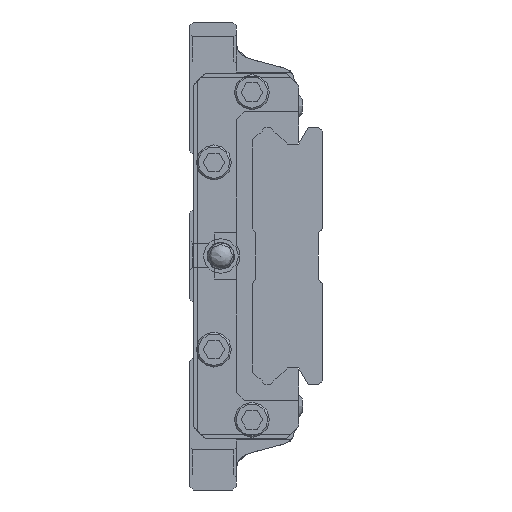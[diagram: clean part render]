
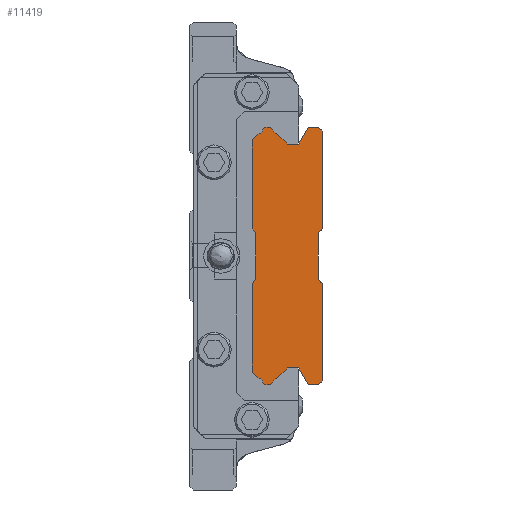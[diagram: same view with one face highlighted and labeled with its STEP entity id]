
A CAD part, left-side view. The second image highlights one B-rep face of the part: STEP entity #11419.
In plain terms, the highlighted planar face has unit normal (-1, 0, 0).
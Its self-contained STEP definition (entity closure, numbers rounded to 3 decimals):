
#526=LINE('',#18287,#1148);
#536=LINE('',#18308,#1158);
#543=LINE('',#18323,#1165);
#552=LINE('',#18341,#1174);
#555=LINE('',#18346,#1177);
#562=LINE('',#18358,#1184);
#571=LINE('',#18377,#1193);
#574=LINE('',#18383,#1196);
#580=LINE('',#18395,#1202);
#589=LINE('',#18413,#1211);
#592=LINE('',#18419,#1214);
#598=LINE('',#18431,#1220);
#603=LINE('',#18516,#1225);
#609=LINE('',#18602,#1231);
#618=LINE('',#18620,#1240);
#621=LINE('',#18701,#1243);
#629=LINE('',#18791,#1251);
#632=LINE('',#18873,#1254);
#638=LINE('',#18959,#1260);
#647=LINE('',#18977,#1269);
#650=LINE('',#19059,#1272);
#656=LINE('',#19145,#1278);
#661=LINE('',#19158,#1283);
#664=LINE('',#19164,#1286);
#666=LINE('',#19167,#1288);
#668=LINE('',#19170,#1290);
#671=LINE('',#19176,#1293);
#674=LINE('',#19188,#1296);
#1148=VECTOR('',#14594,1000.);
#1158=VECTOR('',#14606,1000.);
#1165=VECTOR('',#14617,1000.);
#1174=VECTOR('',#14628,1000.);
#1177=VECTOR('',#14633,1000.);
#1184=VECTOR('',#14644,1000.);
#1193=VECTOR('',#14655,1000.);
#1196=VECTOR('',#14660,1000.);
#1202=VECTOR('',#14670,1000.);
#1211=VECTOR('',#14681,1000.);
#1214=VECTOR('',#14686,1000.);
#1220=VECTOR('',#14696,1000.);
#1225=VECTOR('',#14779,1000.);
#1231=VECTOR('',#14863,1000.);
#1240=VECTOR('',#14874,1000.);
#1243=VECTOR('',#14955,1000.);
#1251=VECTOR('',#15041,1000.);
#1254=VECTOR('',#15122,1000.);
#1260=VECTOR('',#15206,1000.);
#1269=VECTOR('',#15217,1000.);
#1272=VECTOR('',#15298,1000.);
#1278=VECTOR('',#15382,1000.);
#1283=VECTOR('',#15395,1000.);
#1286=VECTOR('',#15400,1000.);
#1288=VECTOR('',#15404,1000.);
#1290=VECTOR('',#15408,1000.);
#1293=VECTOR('',#15413,1000.);
#1296=VECTOR('',#15430,1000.);
#1545=PLANE('',#12634);
#3767=ORIENTED_EDGE('',*,*,#5361,.F.);
#3768=ORIENTED_EDGE('',*,*,#5387,.F.);
#3769=ORIENTED_EDGE('',*,*,#5807,.T.);
#3770=ORIENTED_EDGE('',*,*,#5781,.F.);
#3771=ORIENTED_EDGE('',*,*,#5738,.F.);
#3772=ORIENTED_EDGE('',*,*,#5697,.F.);
#3773=ORIENTED_EDGE('',*,*,#5805,.F.);
#3774=ORIENTED_EDGE('',*,*,#5688,.F.);
#3775=ORIENTED_EDGE('',*,*,#5645,.F.);
#3776=ORIENTED_EDGE('',*,*,#5604,.F.);
#3777=ORIENTED_EDGE('',*,*,#5803,.T.);
#3778=ORIENTED_EDGE('',*,*,#5423,.F.);
#3779=ORIENTED_EDGE('',*,*,#5417,.F.);
#3780=ORIENTED_EDGE('',*,*,#5414,.F.);
#3781=ORIENTED_EDGE('',*,*,#5801,.T.);
#3782=ORIENTED_EDGE('',*,*,#5798,.F.);
#3783=ORIENTED_EDGE('',*,*,#5795,.F.);
#3784=ORIENTED_EDGE('',*,*,#5405,.F.);
#3785=ORIENTED_EDGE('',*,*,#5399,.F.);
#3786=ORIENTED_EDGE('',*,*,#5396,.F.);
#3787=ORIENTED_EDGE('',*,*,#5559,.F.);
#3788=ORIENTED_EDGE('',*,*,#5518,.F.);
#3789=ORIENTED_EDGE('',*,*,#5793,.F.);
#3790=ORIENTED_EDGE('',*,*,#5509,.F.);
#3791=ORIENTED_EDGE('',*,*,#5466,.F.);
#3792=ORIENTED_EDGE('',*,*,#5351,.F.);
#3793=ORIENTED_EDGE('',*,*,#5380,.F.);
#3794=ORIENTED_EDGE('',*,*,#5377,.F.);
#3795=ORIENTED_EDGE('',*,*,#5791,.F.);
#3796=ORIENTED_EDGE('',*,*,#5788,.F.);
#3797=ORIENTED_EDGE('',*,*,#5785,.T.);
#3798=ORIENTED_EDGE('',*,*,#5368,.F.);
#5351=EDGE_CURVE('',#6531,#6532,#526,.T.);
#5361=EDGE_CURVE('',#6541,#6542,#536,.T.);
#5368=EDGE_CURVE('',#6542,#6548,#543,.T.);
#5377=EDGE_CURVE('',#6555,#6556,#552,.T.);
#5380=EDGE_CURVE('',#6556,#6531,#555,.T.);
#5387=EDGE_CURVE('',#6559,#6541,#562,.T.);
#5396=EDGE_CURVE('',#6568,#6569,#571,.T.);
#5399=EDGE_CURVE('',#6569,#6571,#574,.T.);
#5405=EDGE_CURVE('',#6571,#6575,#580,.T.);
#5414=EDGE_CURVE('',#6582,#6583,#589,.T.);
#5417=EDGE_CURVE('',#6583,#6585,#592,.T.);
#5423=EDGE_CURVE('',#6585,#6589,#598,.T.);
#5466=EDGE_CURVE('',#6532,#6630,#603,.T.);
#5509=EDGE_CURVE('',#6630,#6671,#609,.T.);
#5518=EDGE_CURVE('',#6678,#6679,#618,.T.);
#5559=EDGE_CURVE('',#6679,#6568,#621,.T.);
#5604=EDGE_CURVE('',#6760,#6761,#629,.T.);
#5645=EDGE_CURVE('',#6761,#6801,#632,.T.);
#5688=EDGE_CURVE('',#6801,#6842,#638,.T.);
#5697=EDGE_CURVE('',#6849,#6850,#647,.T.);
#5738=EDGE_CURVE('',#6850,#6890,#650,.T.);
#5781=EDGE_CURVE('',#6890,#6931,#656,.T.);
#5785=EDGE_CURVE('',#6933,#6548,#7645,.T.);
#5788=EDGE_CURVE('',#6933,#6935,#661,.T.);
#5791=EDGE_CURVE('',#6935,#6555,#664,.T.);
#5793=EDGE_CURVE('',#6671,#6678,#666,.T.);
#5795=EDGE_CURVE('',#6575,#6937,#668,.T.);
#5798=EDGE_CURVE('',#6937,#6939,#671,.T.);
#5801=EDGE_CURVE('',#6582,#6939,#7647,.T.);
#5803=EDGE_CURVE('',#6760,#6589,#7649,.T.);
#5805=EDGE_CURVE('',#6842,#6849,#674,.T.);
#5807=EDGE_CURVE('',#6559,#6931,#7651,.T.);
#6531=VERTEX_POINT('',#18286);
#6532=VERTEX_POINT('',#18288);
#6541=VERTEX_POINT('',#18307);
#6542=VERTEX_POINT('',#18309);
#6548=VERTEX_POINT('',#18324);
#6555=VERTEX_POINT('',#18340);
#6556=VERTEX_POINT('',#18342);
#6559=VERTEX_POINT('',#18357);
#6568=VERTEX_POINT('',#18376);
#6569=VERTEX_POINT('',#18378);
#6571=VERTEX_POINT('',#18384);
#6575=VERTEX_POINT('',#18396);
#6582=VERTEX_POINT('',#18412);
#6583=VERTEX_POINT('',#18414);
#6585=VERTEX_POINT('',#18420);
#6589=VERTEX_POINT('',#18432);
#6630=VERTEX_POINT('',#18517);
#6671=VERTEX_POINT('',#18603);
#6678=VERTEX_POINT('',#18619);
#6679=VERTEX_POINT('',#18621);
#6760=VERTEX_POINT('',#18790);
#6761=VERTEX_POINT('',#18792);
#6801=VERTEX_POINT('',#18874);
#6842=VERTEX_POINT('',#18960);
#6849=VERTEX_POINT('',#18976);
#6850=VERTEX_POINT('',#18978);
#6890=VERTEX_POINT('',#19060);
#6931=VERTEX_POINT('',#19146);
#6933=VERTEX_POINT('',#19153);
#6935=VERTEX_POINT('',#19159);
#6937=VERTEX_POINT('',#19171);
#6939=VERTEX_POINT('',#19177);
#7645=CIRCLE('',#12616,1.04);
#7647=CIRCLE('',#12624,1.04);
#7649=CIRCLE('',#12627,1.04);
#7651=CIRCLE('',#12631,1.04);
#8624=EDGE_LOOP('',(#3767,#3768,#3769,#3770,#3771,#3772,#3773,#3774,#3775,
#3776,#3777,#3778,#3779,#3780,#3781,#3782,#3783,#3784,#3785,#3786,#3787,
#3788,#3789,#3790,#3791,#3792,#3793,#3794,#3795,#3796,#3797,#3798));
#10212=FACE_BOUND('',#8624,.T.);
#11419=ADVANCED_FACE('',(#10212),#1545,.F.);
#12616=AXIS2_PLACEMENT_3D('',#19152,#15388,#15389);
#12624=AXIS2_PLACEMENT_3D('',#19182,#15418,#15419);
#12627=AXIS2_PLACEMENT_3D('',#19185,#15424,#15425);
#12631=AXIS2_PLACEMENT_3D('',#19191,#15434,#15435);
#12634=AXIS2_PLACEMENT_3D('',#19194,#15440,#15441);
#14594=DIRECTION('',(0.,-0.707,-0.707));
#14606=DIRECTION('',(0.,-1.,0.));
#14617=DIRECTION('',(0.,-0.707,-0.707));
#14628=DIRECTION('',(0.,-0.5,0.866));
#14633=DIRECTION('',(0.,-1.,0.));
#14644=DIRECTION('',(0.,-0.707,0.707));
#14655=DIRECTION('',(0.,0.707,-0.707));
#14660=DIRECTION('',(0.,1.,0.));
#14670=DIRECTION('',(0.,0.5,0.866));
#14681=DIRECTION('',(0.,0.707,-0.707));
#14686=DIRECTION('',(0.,1.,0.));
#14696=DIRECTION('',(0.,0.707,0.707));
#14779=DIRECTION('',(0.,0.,-1.));
#14863=DIRECTION('',(0.,0.707,-0.707));
#14874=DIRECTION('',(0.,-0.707,-0.707));
#14955=DIRECTION('',(0.,0.,-1.));
#15041=DIRECTION('',(0.,0.707,0.707));
#15122=DIRECTION('',(0.,0.,1.));
#15206=DIRECTION('',(0.,-0.707,0.707));
#15217=DIRECTION('',(0.,0.707,0.707));
#15298=DIRECTION('',(0.,0.,1.));
#15382=DIRECTION('',(0.,-0.707,0.707));
#15388=DIRECTION('',(1.,0.,0.));
#15389=DIRECTION('',(0.,0.,-1.));
#15395=DIRECTION('',(0.,-0.707,-0.707));
#15400=DIRECTION('',(0.,-1.,0.));
#15404=DIRECTION('',(0.,0.,-1.));
#15408=DIRECTION('',(0.,1.,0.));
#15413=DIRECTION('',(0.,0.707,-0.707));
#15418=DIRECTION('',(1.,0.,0.));
#15419=DIRECTION('',(0.,0.,-1.));
#15424=DIRECTION('',(1.,0.,0.));
#15425=DIRECTION('',(0.,0.,-1.));
#15430=DIRECTION('',(0.,0.,1.));
#15434=DIRECTION('',(1.,0.,0.));
#15435=DIRECTION('',(0.,0.,-1.));
#15440=DIRECTION('',(1.,0.,0.));
#15441=DIRECTION('',(0.,0.,-1.));
#18286=CARTESIAN_POINT('',(-20.,0.5,16.5));
#18287=CARTESIAN_POINT('',(-20.,0.5,16.5));
#18288=CARTESIAN_POINT('',(-20.,0.,16.));
#18307=CARTESIAN_POINT('',(-20.,7.38,16.5));
#18308=CARTESIAN_POINT('',(-20.,7.38,16.5));
#18309=CARTESIAN_POINT('',(-20.,6.62,16.5));
#18323=CARTESIAN_POINT('',(-20.,6.62,16.5));
#18324=CARTESIAN_POINT('',(-20.,6.459,16.339));
#18340=CARTESIAN_POINT('',(-20.,3.041,14.35));
#18341=CARTESIAN_POINT('',(-20.,3.041,14.35));
#18342=CARTESIAN_POINT('',(-20.,1.8,16.5));
#18346=CARTESIAN_POINT('',(-20.,1.8,16.5));
#18357=CARTESIAN_POINT('',(-20.,7.543,16.337));
#18358=CARTESIAN_POINT('',(-20.,7.543,16.337));
#18376=CARTESIAN_POINT('',(-20.,0.,-16.));
#18377=CARTESIAN_POINT('',(-20.,0.,-16.));
#18378=CARTESIAN_POINT('',(-20.,0.5,-16.5));
#18383=CARTESIAN_POINT('',(-20.,0.5,-16.5));
#18384=CARTESIAN_POINT('',(-20.,1.8,-16.5));
#18395=CARTESIAN_POINT('',(-20.,1.8,-16.5));
#18396=CARTESIAN_POINT('',(-20.,3.041,-14.35));
#18412=CARTESIAN_POINT('',(-20.,6.459,-16.339));
#18413=CARTESIAN_POINT('',(-20.,6.459,-16.339));
#18414=CARTESIAN_POINT('',(-20.,6.62,-16.5));
#18419=CARTESIAN_POINT('',(-20.,6.62,-16.5));
#18420=CARTESIAN_POINT('',(-20.,7.38,-16.5));
#18431=CARTESIAN_POINT('',(-20.,7.38,-16.5));
#18432=CARTESIAN_POINT('',(-20.,7.543,-16.337));
#18516=CARTESIAN_POINT('',(-20.,0.,16.));
#18517=CARTESIAN_POINT('',(-20.,0.,3.5));
#18602=CARTESIAN_POINT('',(-20.,0.,3.5));
#18603=CARTESIAN_POINT('',(-20.,0.5,3.));
#18619=CARTESIAN_POINT('',(-20.,0.5,-3.));
#18620=CARTESIAN_POINT('',(-20.,0.5,-3.));
#18621=CARTESIAN_POINT('',(-20.,0.,-3.5));
#18701=CARTESIAN_POINT('',(-20.,0.,-3.5));
#18790=CARTESIAN_POINT('',(-20.,8.267,-15.613));
#18791=CARTESIAN_POINT('',(-20.,8.267,-15.613));
#18792=CARTESIAN_POINT('',(-20.,9.,-14.88));
#18873=CARTESIAN_POINT('',(-20.,9.,-14.88));
#18874=CARTESIAN_POINT('',(-20.,9.,-3.5));
#18959=CARTESIAN_POINT('',(-20.,9.,-3.5));
#18960=CARTESIAN_POINT('',(-20.,8.5,-3.));
#18976=CARTESIAN_POINT('',(-20.,8.5,3.));
#18977=CARTESIAN_POINT('',(-20.,8.5,3.));
#18978=CARTESIAN_POINT('',(-20.,9.,3.5));
#19059=CARTESIAN_POINT('',(-20.,9.,3.5));
#19060=CARTESIAN_POINT('',(-20.,9.,14.88));
#19145=CARTESIAN_POINT('',(-20.,9.,14.88));
#19146=CARTESIAN_POINT('',(-20.,8.267,15.613));
#19152=CARTESIAN_POINT('',(-20.,5.456,16.615));
#19153=CARTESIAN_POINT('',(-20.,5.732,15.612));
#19158=CARTESIAN_POINT('',(-20.,5.732,15.612));
#19159=CARTESIAN_POINT('',(-20.,4.47,14.35));
#19164=CARTESIAN_POINT('',(-20.,4.47,14.35));
#19167=CARTESIAN_POINT('',(-20.,0.5,3.));
#19170=CARTESIAN_POINT('',(-20.,3.041,-14.35));
#19171=CARTESIAN_POINT('',(-20.,4.47,-14.35));
#19176=CARTESIAN_POINT('',(-20.,4.47,-14.35));
#19177=CARTESIAN_POINT('',(-20.,5.732,-15.612));
#19182=CARTESIAN_POINT('',(-20.,5.456,-16.615));
#19185=CARTESIAN_POINT('',(-20.,8.545,-16.615));
#19188=CARTESIAN_POINT('',(-20.,8.5,-3.));
#19191=CARTESIAN_POINT('',(-20.,8.545,16.615));
#19194=CARTESIAN_POINT('',(-20.,5.456,16.615));
